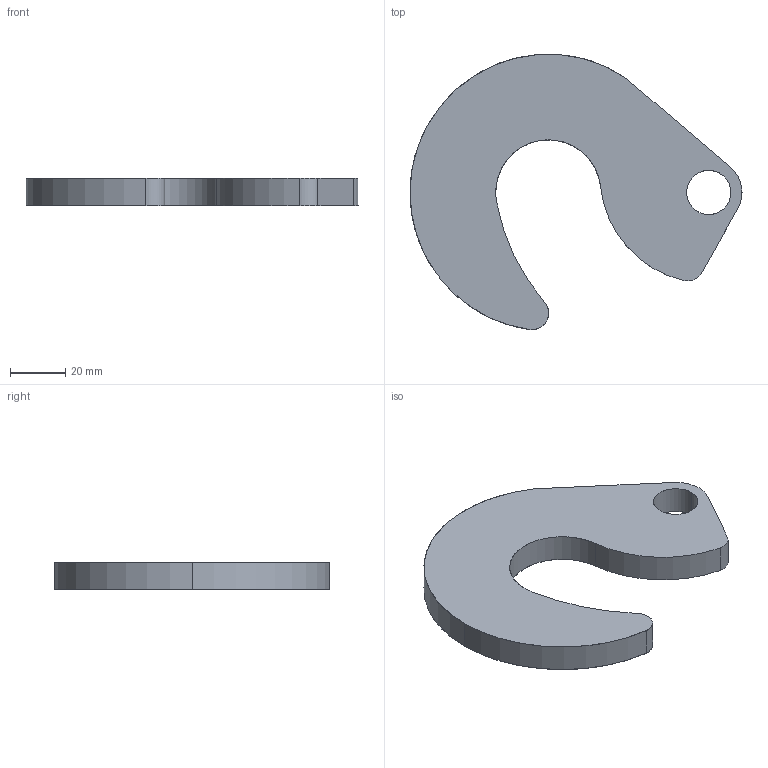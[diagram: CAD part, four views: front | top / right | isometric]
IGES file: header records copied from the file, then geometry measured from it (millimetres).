
Start section: SolidWorks IGES file using analytic representation for surfaces
Global section: file name: E:\Nouveau dossier\tarek\mécaniquee\L3GMCFM\TP0\EX5.IGS; native system: SolidWorks 2013; preprocessor: SolidWorks 2013; author: LENOVO; date: 180920.173008; units: millimetre
Bounding box: 120 x 99.55 x 10 mm (x, y, z)
Surface area: 17075 mm2 (no closed solid volume)
Topology: 0 solids, 0 shells, 15 faces, 306 edges, 306 vertices
Faces by surface type: revolution 11, bspline 4
